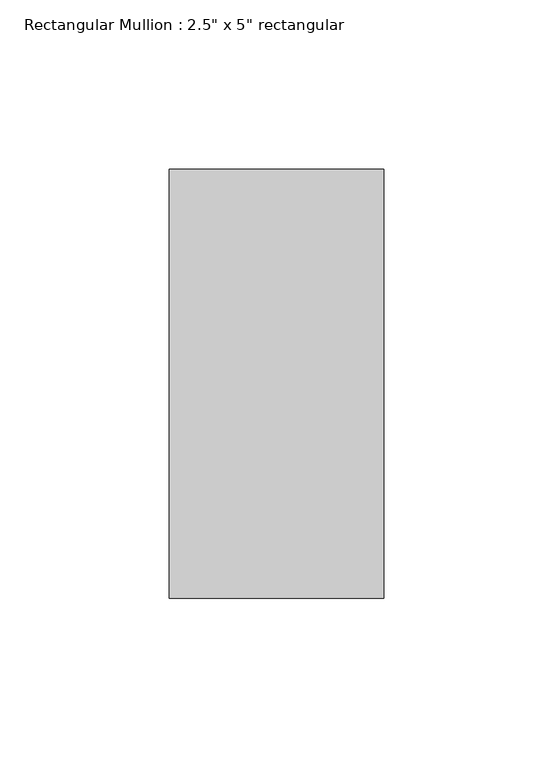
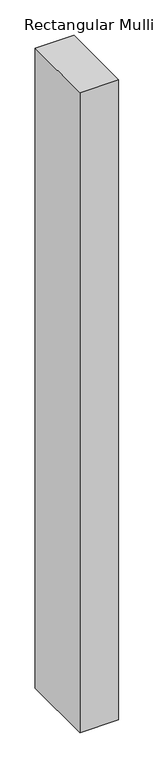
"""IFC4 building model written with IfcOpenShell, lengths in millimetres: member geometry."""

from ifc_helpers import new_model, si_unit, frame, origin, place, context, project, spatial, polyline, outline, extrude, source, transform, mapped, element, save


def member_cf99e2ad(model_context):
    return source(origin(), model_context, "Body", "SweptSolid", [
        extrude(outline(polyline([(31.75, 63.5), (31.75, -63.5), (-31.75, -63.5), (-31.75, 63.5), (31.75, 63.5)])), frame((0.0, 0.0, -1108.075), z_axis=(0.0, 0.0, 1.0), x_axis=(1.0, 0.0, 0.0)), (0.0, 0.0, 1.0), 1108.075),
    ])


if __name__ == "__main__":
    model = new_model("IFC4")
    model_context = context("Model", 3, world=origin())
    ifc_project = project(units=[si_unit("LENGTHUNIT", "METRE", prefix="MILLI")], contexts=[model_context])
    site = spatial("IfcSite", under=ifc_project)
    building = spatial("IfcBuilding", under=site)
    placement = place(None, origin())
    member_shape = member_cf99e2ad(model_context)
    element("IfcMember", 1, ObjectType="Rectangular Mullion : 2.5\" x 5\" rectangular", at=placement, inside=building, context=model_context, shape_type="MappedRepresentation", body=[
        mapped(member_shape, transform((0.0, 0.0, 0.0), x_axis=(1.0, 0.0, 0.0), y_axis=(0.0, 1.0, 0.0), z_axis=(0.0, 0.0, 1.0))),
    ])
    save(model, "model.ifc")
